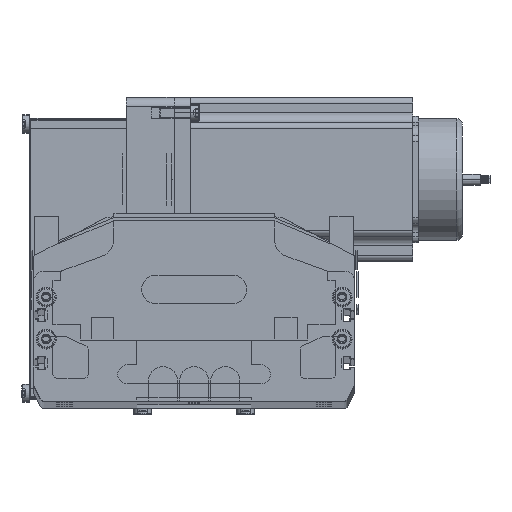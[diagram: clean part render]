
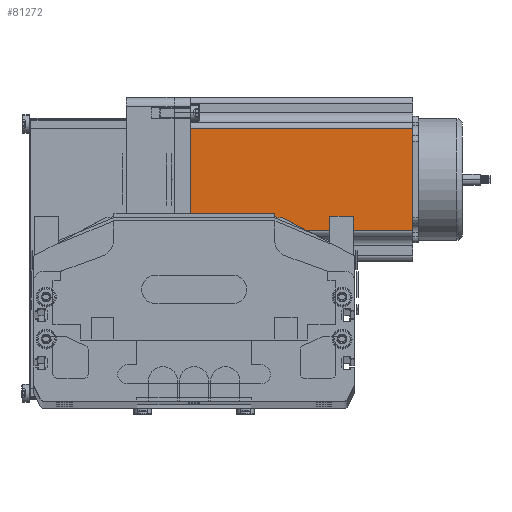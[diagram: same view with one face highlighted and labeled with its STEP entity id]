
A CAD part, top view. The second image highlights one B-rep face of the part: STEP entity #81272.
In plain terms, the highlighted planar face has unit normal (0, 0, 1) as drawn and (0, -1, 0) by its records, which use the part's own axes.
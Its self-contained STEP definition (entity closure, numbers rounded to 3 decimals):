
#80880 = ORIENTED_EDGE ( 'NONE', *, *, #81055, .T. ) ;
#80937 = ORIENTED_EDGE ( 'NONE', *, *, #81233, .T. ) ;
#81029 = EDGE_LOOP ( 'NONE', ( #80880, #81274, #81232, #80937 ) ) ;
#81030 = VERTEX_POINT ( 'NONE', #82208 ) ;
#81033 = VERTEX_POINT ( 'NONE', #82120 ) ;
#81034 = VERTEX_POINT ( 'NONE', #82213 ) ;
#81055 = EDGE_CURVE ( 'NONE', #81030, #81033, #82183, .T. ) ;
#81180 = EDGE_CURVE ( 'NONE', #81237, #81034, #82408, .T. ) ;
#81232 = ORIENTED_EDGE ( 'NONE', *, *, #81180, .F. ) ;
#81233 = EDGE_CURVE ( 'NONE', #81237, #81030, #82590, .T. ) ;
#81237 = VERTEX_POINT ( 'NONE', #82600 ) ;
#81272 = ADVANCED_FACE ( 'NONE', ( #82610 ), #82665, .F. ) ;
#81274 = ORIENTED_EDGE ( 'NONE', *, *, #81276, .T. ) ;
#81276 = EDGE_CURVE ( 'NONE', #81033, #81034, #82636, .T. ) ;
#82120 = CARTESIAN_POINT ( 'NONE',  ( 69.74, 0., 0. ) ) ;
#82173 = DIRECTION ( 'NONE',  ( 1., 0., 0. ) ) ;
#82175 = VECTOR ( 'NONE', #82173, 1000. ) ;
#82177 = CARTESIAN_POINT ( 'NONE',  ( 0., 0., 0. ) ) ;
#82183 = LINE ( 'NONE', #82177, #82175 ) ;
#82208 = CARTESIAN_POINT ( 'NONE',  ( 16.16, 0., 0. ) ) ;
#82213 = CARTESIAN_POINT ( 'NONE',  ( 69.74, 0., 116.5 ) ) ;
#82406 = CARTESIAN_POINT ( 'NONE',  ( 0., 0., 116.5 ) ) ;
#82408 = LINE ( 'NONE', #82406, #82472 ) ;
#82471 = DIRECTION ( 'NONE',  ( 1., 0., 0. ) ) ;
#82472 = VECTOR ( 'NONE', #82471, 1000. ) ;
#82582 = CARTESIAN_POINT ( 'NONE',  ( 69.74, 0., 116.5 ) ) ;
#82585 = DIRECTION ( 'NONE',  ( 0., 0., -1. ) ) ;
#82586 = VECTOR ( 'NONE', #82585, 1000. ) ;
#82589 = CARTESIAN_POINT ( 'NONE',  ( 16.16, 0., 116.5 ) ) ;
#82590 = LINE ( 'NONE', #82589, #82586 ) ;
#82600 = CARTESIAN_POINT ( 'NONE',  ( 16.16, 0., 116.5 ) ) ;
#82610 = FACE_OUTER_BOUND ( 'NONE', #81029, .T. ) ;
#82625 = DIRECTION ( 'NONE',  ( 0., 0., 1. ) ) ;
#82626 = VECTOR ( 'NONE', #82625, 1000. ) ;
#82631 = DIRECTION ( 'NONE',  ( 0., 0., 1. ) ) ;
#82633 = DIRECTION ( 'NONE',  ( 0., 1., 0. ) ) ;
#82634 = CARTESIAN_POINT ( 'NONE',  ( 0., 0., 116.5 ) ) ;
#82636 = LINE ( 'NONE', #82582, #82626 ) ;
#82665 = PLANE ( 'NONE',  #82672 ) ;
#82672 = AXIS2_PLACEMENT_3D ( 'NONE', #82634, #82633, #82631 ) ;
